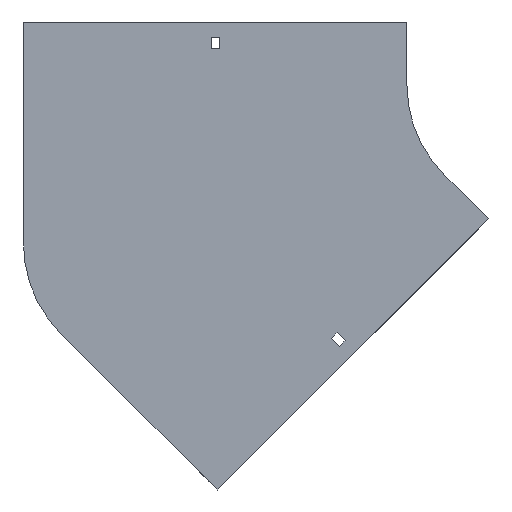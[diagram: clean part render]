
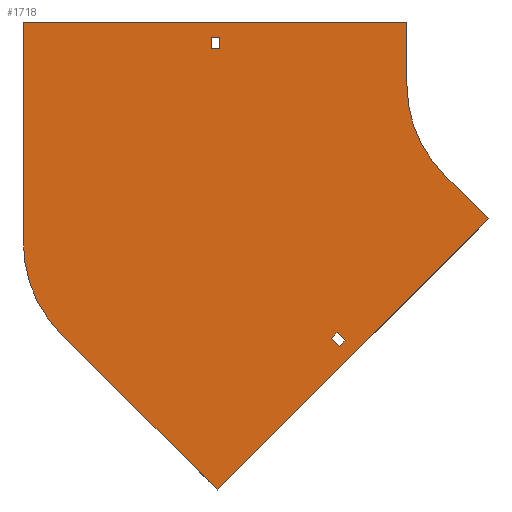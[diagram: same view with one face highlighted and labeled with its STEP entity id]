
A CAD part, front view. The second image highlights one B-rep face of the part: STEP entity #1718.
In plain terms, the highlighted planar face has unit normal (0, -1, 0).
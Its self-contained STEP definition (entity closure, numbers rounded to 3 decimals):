
#46 = LINE ( 'NONE', #817, #1310 ) ;
#60 = ORIENTED_EDGE ( 'NONE', *, *, #92, .F. ) ;
#77 = DIRECTION ( 'NONE',  ( 0., -1., 0. ) ) ;
#84 = ORIENTED_EDGE ( 'NONE', *, *, #1866, .F. ) ;
#90 = DIRECTION ( 'NONE',  ( 0.707, 0., -0.707 ) ) ;
#92 = EDGE_CURVE ( 'NONE', #985, #1057, #159, .T. ) ;
#100 = LINE ( 'NONE', #708, #1728 ) ;
#101 = CARTESIAN_POINT ( 'NONE',  ( -304., 0., -125.921 ) ) ;
#106 = ORIENTED_EDGE ( 'NONE', *, *, #1145, .T. ) ;
#146 = DIRECTION ( 'NONE',  ( -0.707, 0., -0.707 ) ) ;
#149 = DIRECTION ( 'NONE',  ( -0.707, 0., 0.707 ) ) ;
#155 = CARTESIAN_POINT ( 'NONE',  ( -155.387, 0., -196.399 ) ) ;
#159 = LINE ( 'NONE', #1809, #1150 ) ;
#192 = ORIENTED_EDGE ( 'NONE', *, *, #1221, .F. ) ;
#211 = ORIENTED_EDGE ( 'NONE', *, *, #380, .F. ) ;
#267 = LINE ( 'NONE', #1151, #659 ) ;
#271 = EDGE_CURVE ( 'NONE', #1057, #944, #1869, .T. ) ;
#330 = LINE ( 'NONE', #1387, #475 ) ;
#334 = ORIENTED_EDGE ( 'NONE', *, *, #912, .T. ) ;
#336 = ORIENTED_EDGE ( 'NONE', *, *, #505, .F. ) ;
#357 = CARTESIAN_POINT ( 'NONE',  ( -255.25, 0., 38. ) ) ;
#358 = EDGE_CURVE ( 'NONE', #1302, #631, #1939, .T. ) ;
#374 = VERTEX_POINT ( 'NONE', #1040 ) ;
#380 = EDGE_CURVE ( 'NONE', #631, #1067, #1493, .T. ) ;
#394 = DIRECTION ( 'NONE',  ( 0., 0., 1. ) ) ;
#399 = DIRECTION ( 'NONE',  ( 0., 0., -1. ) ) ;
#414 = VERTEX_POINT ( 'NONE', #1071 ) ;
#442 = EDGE_CURVE ( 'NONE', #1187, #985, #1120, .T. ) ;
#450 = DIRECTION ( 'NONE',  ( -1., 0., 0. ) ) ;
#452 = CARTESIAN_POINT ( 'NONE',  ( -159.983, 0., -200.995 ) ) ;
#462 = CARTESIAN_POINT ( 'NONE',  ( -70.711, 0., -70.711 ) ) ;
#469 = CARTESIAN_POINT ( 'NONE',  ( -159.983, 0., -200.995 ) ) ;
#475 = VECTOR ( 'NONE', #146, 1000. ) ;
#493 = VECTOR ( 'NONE', #1112, 1000. ) ;
#504 = CARTESIAN_POINT ( 'NONE',  ( -153.619, 0., -207.359 ) ) ;
#505 = EDGE_CURVE ( 'NONE', #870, #1187, #851, .T. ) ;
#517 = CARTESIAN_POINT ( 'NONE',  ( -100., 0., 50. ) ) ;
#520 = EDGE_LOOP ( 'NONE', ( #60, #1663, #336, #1838, #1596, #1920, #192, #1618 ) ) ;
#524 = VECTOR ( 'NONE', #727, 1000. ) ;
#525 = DIRECTION ( 'NONE',  ( 0., 0., 1. ) ) ;
#529 = EDGE_CURVE ( 'NONE', #1085, #1107, #267, .T. ) ;
#531 = VERTEX_POINT ( 'NONE', #1611 ) ;
#565 = VECTOR ( 'NONE', #149, 1000. ) ;
#569 = DIRECTION ( 'NONE',  ( 0., -1., 0. ) ) ;
#603 = DIRECTION ( 'NONE',  ( 1., 0., 0. ) ) ;
#614 = CARTESIAN_POINT ( 'NONE',  ( -255.25, 0., 38. ) ) ;
#624 = AXIS2_PLACEMENT_3D ( 'NONE', #1443, #569, #399 ) ;
#631 = VERTEX_POINT ( 'NONE', #910 ) ;
#646 = DIRECTION ( 'NONE',  ( 0.707, 0., 0.707 ) ) ;
#659 = VECTOR ( 'NONE', #90, 1000. ) ;
#673 = EDGE_LOOP ( 'NONE', ( #106, #1128, #334, #1625 ) ) ;
#674 = DIRECTION ( 'NONE',  ( 0., 0., -1. ) ) ;
#675 = EDGE_CURVE ( 'NONE', #1107, #414, #330, .T. ) ;
#708 = CARTESIAN_POINT ( 'NONE',  ( -248.75, 0., 29. ) ) ;
#719 = CIRCLE ( 'NONE', #1218, 100. ) ;
#727 = DIRECTION ( 'NONE',  ( -0.707, 0., -0.707 ) ) ;
#754 = EDGE_LOOP ( 'NONE', ( #1159, #84, #211, #1384 ) ) ;
#797 = VERTEX_POINT ( 'NONE', #1726 ) ;
#815 = EDGE_CURVE ( 'NONE', #1843, #797, #975, .T. ) ;
#817 = CARTESIAN_POINT ( 'NONE',  ( -255.25, 0., 29. ) ) ;
#833 = PLANE ( 'NONE',  #624 ) ;
#834 = VERTEX_POINT ( 'NONE', #1709 ) ;
#838 = VECTOR ( 'NONE', #1804, 1000. ) ;
#849 = CARTESIAN_POINT ( 'NONE',  ( -374.711, 0., -196.632 ) ) ;
#851 = CIRCLE ( 'NONE', #1318, 100. ) ;
#870 = VERTEX_POINT ( 'NONE', #849 ) ;
#895 = CARTESIAN_POINT ( 'NONE',  ( -100., 0., 50. ) ) ;
#910 = CARTESIAN_POINT ( 'NONE',  ( -155.387, 0., -196.399 ) ) ;
#912 = EDGE_CURVE ( 'NONE', #797, #531, #100, .T. ) ;
#926 = CARTESIAN_POINT ( 'NONE',  ( -255.25, 0., 29. ) ) ;
#939 = CARTESIAN_POINT ( 'NONE',  ( -35.355, 0., -106.066 ) ) ;
#944 = VERTEX_POINT ( 'NONE', #1004 ) ;
#975 = LINE ( 'NONE', #357, #1192 ) ;
#985 = VERTEX_POINT ( 'NONE', #1669 ) ;
#991 = DIRECTION ( 'NONE',  ( 0., 0., -1. ) ) ;
#1004 = CARTESIAN_POINT ( 'NONE',  ( -100., 0., 0. ) ) ;
#1040 = CARTESIAN_POINT ( 'NONE',  ( -153.619, 0., -207.359 ) ) ;
#1045 = CARTESIAN_POINT ( 'NONE',  ( -250.316, 0., -321.026 ) ) ;
#1057 = VERTEX_POINT ( 'NONE', #895 ) ;
#1067 = VERTEX_POINT ( 'NONE', #1680 ) ;
#1071 = CARTESIAN_POINT ( 'NONE',  ( -250.316, 0., -321.026 ) ) ;
#1085 = VERTEX_POINT ( 'NONE', #462 ) ;
#1089 = CARTESIAN_POINT ( 'NONE',  ( -404., 0., -125.921 ) ) ;
#1107 = VERTEX_POINT ( 'NONE', #939 ) ;
#1112 = DIRECTION ( 'NONE',  ( 0., 0., -1. ) ) ;
#1120 = LINE ( 'NONE', #1275, #1381 ) ;
#1128 = ORIENTED_EDGE ( 'NONE', *, *, #815, .T. ) ;
#1145 = EDGE_CURVE ( 'NONE', #834, #1843, #46, .T. ) ;
#1150 = VECTOR ( 'NONE', #603, 1000. ) ;
#1151 = CARTESIAN_POINT ( 'NONE',  ( -70.711, 0., -70.711 ) ) ;
#1159 = ORIENTED_EDGE ( 'NONE', *, *, #1164, .F. ) ;
#1164 = EDGE_CURVE ( 'NONE', #374, #1302, #1846, .T. ) ;
#1187 = VERTEX_POINT ( 'NONE', #1089 ) ;
#1192 = VECTOR ( 'NONE', #1580, 1000. ) ;
#1193 = DIRECTION ( 'NONE',  ( 0.707, 0., -0.707 ) ) ;
#1218 = AXIS2_PLACEMENT_3D ( 'NONE', #1565, #77, #674 ) ;
#1221 = EDGE_CURVE ( 'NONE', #944, #1085, #719, .T. ) ;
#1249 = VECTOR ( 'NONE', #646, 1000. ) ;
#1275 = CARTESIAN_POINT ( 'NONE',  ( -404., 0., -125.921 ) ) ;
#1281 = FACE_BOUND ( 'NONE', #673, .T. ) ;
#1302 = VERTEX_POINT ( 'NONE', #1743 ) ;
#1310 = VECTOR ( 'NONE', #1577, 1000. ) ;
#1318 = AXIS2_PLACEMENT_3D ( 'NONE', #101, #1908, #525 ) ;
#1340 = VECTOR ( 'NONE', #450, 1000. ) ;
#1351 = LINE ( 'NONE', #469, #1855 ) ;
#1353 = LINE ( 'NONE', #926, #1340 ) ;
#1381 = VECTOR ( 'NONE', #394, 1000. ) ;
#1384 = ORIENTED_EDGE ( 'NONE', *, *, #358, .F. ) ;
#1387 = CARTESIAN_POINT ( 'NONE',  ( -35.355, 0., -106.066 ) ) ;
#1443 = CARTESIAN_POINT ( 'NONE',  ( 0., 0., 0. ) ) ;
#1470 = FACE_BOUND ( 'NONE', #754, .T. ) ;
#1493 = LINE ( 'NONE', #452, #524 ) ;
#1511 = EDGE_CURVE ( 'NONE', #531, #834, #1353, .T. ) ;
#1565 = CARTESIAN_POINT ( 'NONE',  ( 0., 0., 0. ) ) ;
#1577 = DIRECTION ( 'NONE',  ( 0., 0., 1. ) ) ;
#1580 = DIRECTION ( 'NONE',  ( 1., 0., 0. ) ) ;
#1596 = ORIENTED_EDGE ( 'NONE', *, *, #675, .F. ) ;
#1611 = CARTESIAN_POINT ( 'NONE',  ( -248.75, 0., 29. ) ) ;
#1618 = ORIENTED_EDGE ( 'NONE', *, *, #271, .F. ) ;
#1625 = ORIENTED_EDGE ( 'NONE', *, *, #1511, .T. ) ;
#1663 = ORIENTED_EDGE ( 'NONE', *, *, #442, .F. ) ;
#1669 = CARTESIAN_POINT ( 'NONE',  ( -404., 0., 50. ) ) ;
#1680 = CARTESIAN_POINT ( 'NONE',  ( -159.983, 0., -200.995 ) ) ;
#1709 = CARTESIAN_POINT ( 'NONE',  ( -255.25, 0., 29. ) ) ;
#1718 = ADVANCED_FACE ( 'NONE', ( #1281, #1910, #1470 ), #833, .T. ) ;
#1726 = CARTESIAN_POINT ( 'NONE',  ( -248.75, 0., 38. ) ) ;
#1728 = VECTOR ( 'NONE', #991, 1000. ) ;
#1743 = CARTESIAN_POINT ( 'NONE',  ( -149.023, 0., -202.763 ) ) ;
#1783 = EDGE_CURVE ( 'NONE', #414, #870, #1821, .T. ) ;
#1804 = DIRECTION ( 'NONE',  ( -0.707, 0., 0.707 ) ) ;
#1809 = CARTESIAN_POINT ( 'NONE',  ( -404., 0., 50. ) ) ;
#1821 = LINE ( 'NONE', #1045, #565 ) ;
#1838 = ORIENTED_EDGE ( 'NONE', *, *, #1783, .F. ) ;
#1843 = VERTEX_POINT ( 'NONE', #614 ) ;
#1846 = LINE ( 'NONE', #504, #1249 ) ;
#1855 = VECTOR ( 'NONE', #1193, 1000. ) ;
#1866 = EDGE_CURVE ( 'NONE', #1067, #374, #1351, .T. ) ;
#1869 = LINE ( 'NONE', #517, #493 ) ;
#1908 = DIRECTION ( 'NONE',  ( 0., 1., 0. ) ) ;
#1910 = FACE_OUTER_BOUND ( 'NONE', #520, .T. ) ;
#1920 = ORIENTED_EDGE ( 'NONE', *, *, #529, .F. ) ;
#1939 = LINE ( 'NONE', #155, #838 ) ;
